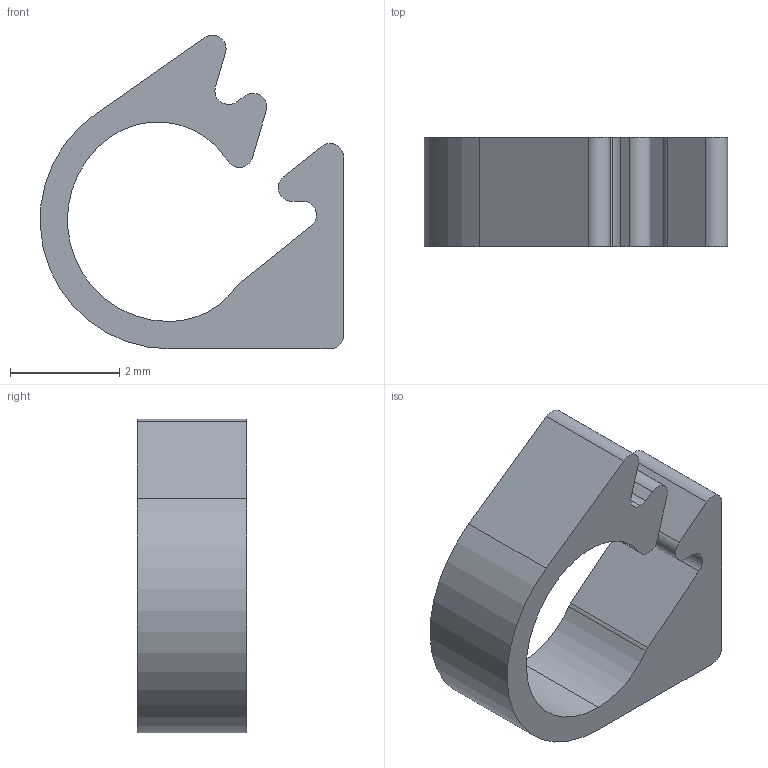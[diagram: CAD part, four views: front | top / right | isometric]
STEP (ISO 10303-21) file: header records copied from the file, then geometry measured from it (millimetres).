
FILE_DESCRIPTION (( 'STEP AP214' ), '1' );
FILE_NAME ('Schlauch_Schelle_1Z-30.STEP', '2021-03-15T14:04:18', ( '' ), ( '' ), 'SwSTEP 2.0', 'SolidWorks 2018', '' );
FILE_SCHEMA (( 'AUTOMOTIVE_DESIGN' ));
Length unit declared in the file: millimetre
Products named in the file (1): Schlauch_Schelle_1Z-30
Bounding box: 5.56 x 2 x 5.75 mm (x, y, z)
Volume: 23.3 mm3; surface area: 88.3 mm2
Topology: 1 solids, 1 shells, 27 faces, 75 edges, 50 vertices
Faces by surface type: cylinder 15, plane 12
Entity records: 913 total; most frequent: DIRECTION 161, CARTESIAN_POINT 153, ORIENTED_EDGE 150, EDGE_CURVE 75, AXIS2_PLACEMENT_3D 58, VERTEX_POINT 50, LINE 45, VECTOR 45
